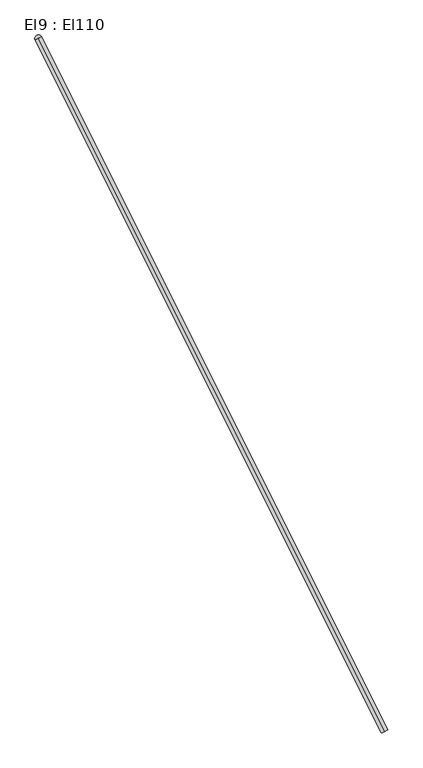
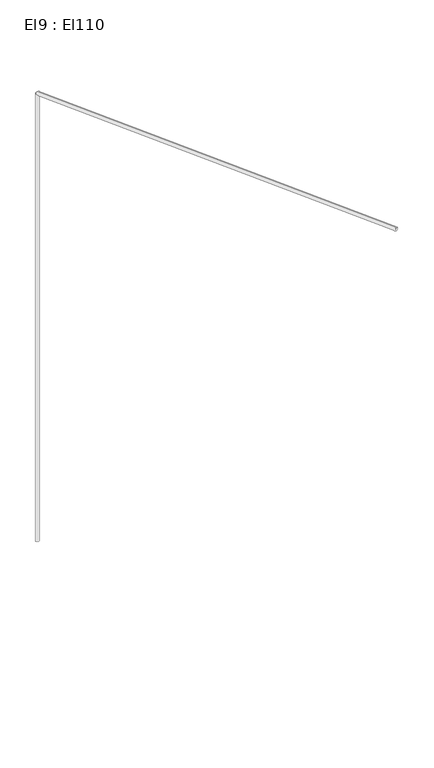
"""IFC4 building model written with IfcOpenShell, lengths in millimetres: cable carrier segment geometry, El9 : El110."""

from ifc_helpers import new_model, si_unit, point, frame, frame_2d, origin, place, context, project, spatial, circle_curve, trimmed, segment, composite_curve, outline, extrude, source, transform, mapped, element, save


def el9_el110_13ecc65c(model_context):
    return source(origin(), model_context, "Body", "SweptSolid", [
        extrude(outline(composite_curve([segment(trimmed(circle_curve(frame_2d((0.0, -9.5)), 9.5), [point((0.0, -19.0))], [point((0.0, 0.0))], False, "CARTESIAN"), True, "CONTINUOUS"), segment(trimmed(circle_curve(frame_2d((0.0, -9.5)), 9.5), [point((0.0, 0.0))], [point((0.0, -19.0))], False, "CARTESIAN"), True, "CONTINUOUS")], self_intersect=False)), frame((28718.9190645, 8211.9846681, 4459.5), z_axis=(-0.44743918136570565, 0.8943143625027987, 0.0), x_axis=(-0.8943143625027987, -0.44743918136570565, 0.0)), (0.0, 0.0, 1.0), 2066.17),
        extrude(outline(composite_curve([segment(trimmed(circle_curve(frame_2d((27794.4336511, 10059.7901745)), 9.5), [point((27784.9336511, 10059.7901745))], [point((27803.9336511, 10059.7901745))], False, "CARTESIAN"), True, "CONTINUOUS"), segment(trimmed(circle_curve(frame_2d((27794.4336511, 10059.7901745)), 9.5), [point((27803.9336511, 10059.7901745))], [point((27784.9336511, 10059.7901745))], False, "CARTESIAN"), True, "CONTINUOUS")], self_intersect=False)), frame((0.0, 0.0, 1830.0), z_axis=(0.0, 0.0, 1.0), x_axis=(1.0, 0.0, 0.0)), (0.0, 0.0, 1.0), 2620.0),
    ])


if __name__ == "__main__":
    model = new_model("IFC4")
    model_context = context("Model", 3, world=origin())
    ifc_project = project(units=[si_unit("LENGTHUNIT", "METRE", prefix="MILLI")], contexts=[model_context])
    site = spatial("IfcSite", under=ifc_project)
    building = spatial("IfcBuilding", under=site)
    placement = place(None, origin())
    el9_el110_shape = el9_el110_13ecc65c(model_context)
    element("IfcCableCarrierSegment", 1, ObjectType="El9 : El110", at=placement, inside=building, context=model_context, shape_type="MappedRepresentation", body=[
        mapped(el9_el110_shape, transform((0.0, 0.0, 0.0), x_axis=(1.0, 0.0, 0.0), y_axis=(0.0, 1.0, 0.0), z_axis=(0.0, 0.0, 1.0))),
    ])
    save(model, "model.ifc")
